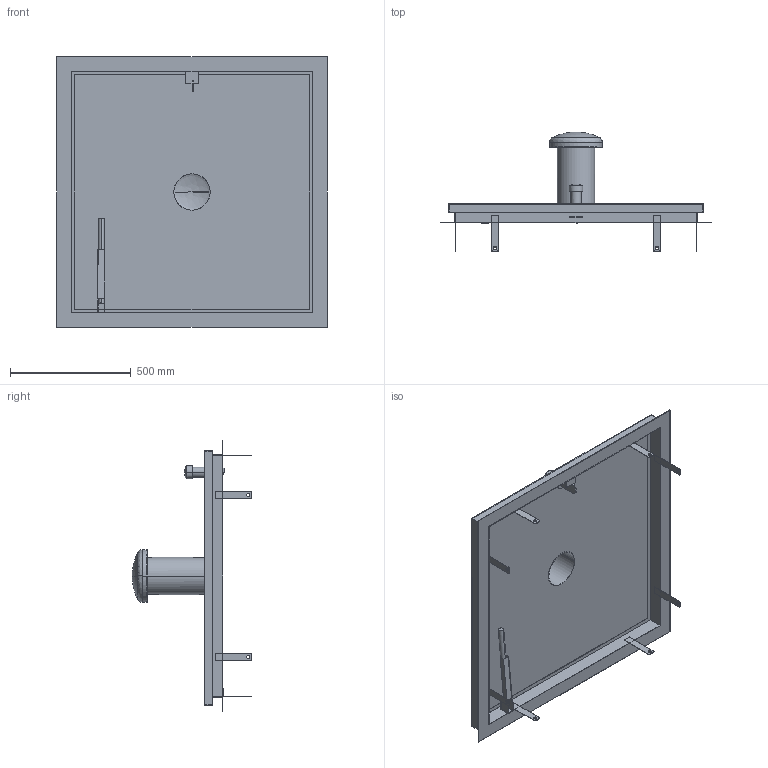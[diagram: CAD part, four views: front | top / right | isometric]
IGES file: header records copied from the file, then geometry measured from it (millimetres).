
Start section:  PTC IGES file: 52335839.igs
Global section: file name: 52335839.igs; native system: Creo Parametric by PTC Inc.; preprocessor: 2022162; author: wep; organization: Unknown; date: 20241219.074234; units: millimetre
Bounding box: 1120 x 495 x 1120 mm (x, y, z)
Surface area: 4093469.6 mm2 (no closed solid volume)
Topology: 0 solids, 0 shells, 746 faces, 4042 edges, 4036 vertices
Faces by surface type: bspline 418, extrusion 275, revolution 53
